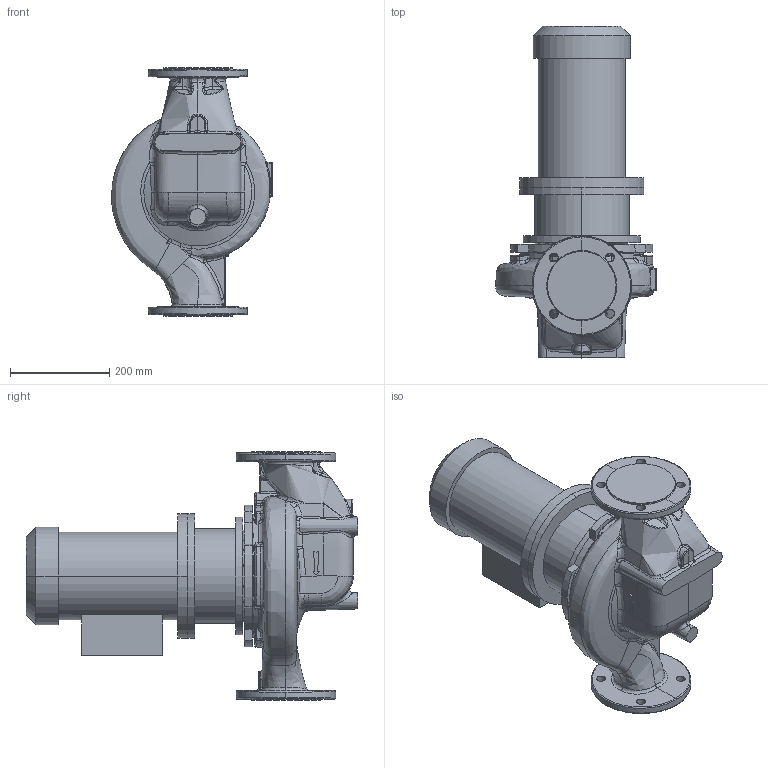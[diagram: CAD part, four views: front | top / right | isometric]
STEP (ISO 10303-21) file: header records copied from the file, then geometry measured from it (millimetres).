
FILE_DESCRIPTION (( 'STEP AP214' ), '1' );
FILE_NAME ('KRL 80-210-4-3.STEP', '2026-04-06T11:26:21', ( '' ), ( '' ), 'SwSTEP 2.0', 'SolidWorks 2016', '' );
FILE_SCHEMA (( 'AUTOMOTIVE_DESIGN' ));
Length unit declared in the file: millimetre
Products named in the file (1): KRL 80-210-4-3
Bounding box: 323.28 x 667.3 x 500 mm (x, y, z)
Volume: 28152548 mm3; surface area: 1191386.1 mm2
Topology: 4 solids, 4 shells, 669 faces, 1656 edges, 986 vertices
Faces by surface type: bspline 324, plane 126, cylinder 120, cone 50, torus 28, sphere 21
Entity records: 69302 total; most frequent: CARTESIAN_POINT 49060, ORIENTED_EDGE 3256, DIRECTION 1900, EDGE_CURVE 1628, VERTEX_POINT 986, AXIS2_PLACEMENT_3D 811, B_SPLINE_CURVE_WITH_KNOTS 757, EDGE_LOOP 704
